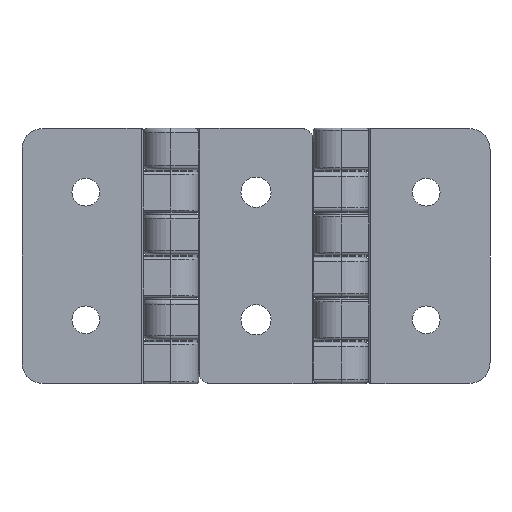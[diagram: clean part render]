
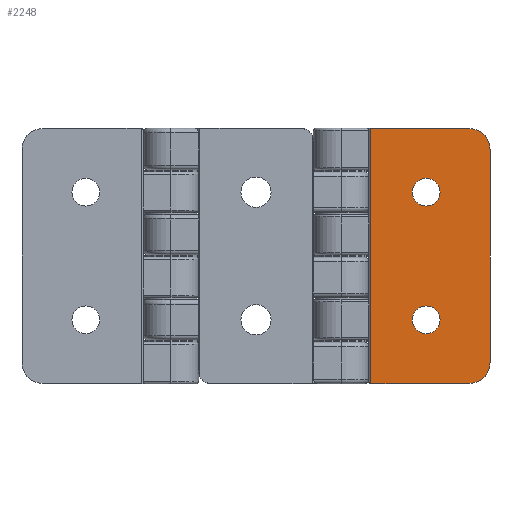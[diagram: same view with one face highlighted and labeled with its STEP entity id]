
A CAD part, front view. The second image highlights one B-rep face of the part: STEP entity #2248.
In plain terms, the highlighted planar face has unit normal (0, -1, 0).
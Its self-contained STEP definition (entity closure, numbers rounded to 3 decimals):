
#747 = ORIENTED_EDGE ( 'NONE', *, *, #2654, .F. ) ;
#748 = ORIENTED_EDGE ( 'NONE', *, *, #2579, .F. ) ;
#749 = ORIENTED_EDGE ( 'NONE', *, *, #2655, .F. ) ;
#750 = ORIENTED_EDGE ( 'NONE', *, *, #2582, .F. ) ;
#751 = ORIENTED_EDGE ( 'NONE', *, *, #2656, .F. ) ;
#752 = ORIENTED_EDGE ( 'NONE', *, *, #2657, .T. ) ;
#753 = ORIENTED_EDGE ( 'NONE', *, *, #2658, .T. ) ;
#754 = ORIENTED_EDGE ( 'NONE', *, *, #2659, .T. ) ;
#755 = ORIENTED_EDGE ( 'NONE', *, *, #2653, .T. ) ;
#756 = ORIENTED_EDGE ( 'NONE', *, *, #2660, .T. ) ;
#757 = ORIENTED_EDGE ( 'NONE', *, *, #2661, .F. ) ;
#1741 = EDGE_LOOP ( 'NONE', ( #749, #750 ) ) ;
#1743 = EDGE_LOOP ( 'NONE', ( #747, #748 ) ) ;
#1744 = EDGE_LOOP ( 'NONE', ( #751, #752, #753, #754, #755, #756, #757 ) ) ;
#1829 = VERTEX_POINT ( 'NONE', #4103 ) ;
#1899 = VERTEX_POINT ( 'NONE', #4173 ) ;
#1928 = VERTEX_POINT ( 'NONE', #4202 ) ;
#1935 = VERTEX_POINT ( 'NONE', #4209 ) ;
#1984 = VERTEX_POINT ( 'NONE', #4258 ) ;
#1988 = VERTEX_POINT ( 'NONE', #4262 ) ;
#2009 = VERTEX_POINT ( 'NONE', #4283 ) ;
#2012 = VERTEX_POINT ( 'NONE', #4286 ) ;
#2013 = VERTEX_POINT ( 'NONE', #4287 ) ;
#2015 = VERTEX_POINT ( 'NONE', #4289 ) ;
#2016 = VERTEX_POINT ( 'NONE', #4290 ) ;
#2248 = ADVANCED_FACE ( 'NONE', ( #3389, #3391, #3388 ), #4966, .T. ) ;
#2579 = EDGE_CURVE ( 'NONE', #1928, #1829, #5751, .T. ) ;
#2582 = EDGE_CURVE ( 'NONE', #1935, #1899, #5756, .T. ) ;
#2653 = EDGE_CURVE ( 'NONE', #1984, #2012, #5904, .T. ) ;
#2654 = EDGE_CURVE ( 'NONE', #1829, #1928, #5899, .T. ) ;
#2655 = EDGE_CURVE ( 'NONE', #1899, #1935, #5908, .T. ) ;
#2656 = EDGE_CURVE ( 'NONE', #2009, #1988, #5909, .T. ) ;
#2657 = EDGE_CURVE ( 'NONE', #2009, #2015, #5906, .T. ) ;
#2658 = EDGE_CURVE ( 'NONE', #2015, #2016, #5913, .T. ) ;
#2659 = EDGE_CURVE ( 'NONE', #2016, #1984, #5915, .T. ) ;
#2660 = EDGE_CURVE ( 'NONE', #2012, #2013, #5918, .T. ) ;
#2661 = EDGE_CURVE ( 'NONE', #1988, #2013, #5920, .T. ) ;
#3388 = FACE_OUTER_BOUND ( 'NONE', #1744, .T. ) ;
#3389 = FACE_BOUND ( 'NONE', #1743, .T. ) ;
#3391 = FACE_BOUND ( 'NONE', #1741, .T. ) ;
#4103 = CARTESIAN_POINT ( 'NONE',  ( 23.25, -6.8, -45. ) ) ;
#4173 = CARTESIAN_POINT ( 'NONE',  ( 23.25, -6.8, -15. ) ) ;
#4202 = CARTESIAN_POINT ( 'NONE',  ( 16.75, -6.8, -45. ) ) ;
#4209 = CARTESIAN_POINT ( 'NONE',  ( 16.75, -6.8, -15. ) ) ;
#4258 = CARTESIAN_POINT ( 'NONE',  ( 35., -6.8, -55. ) ) ;
#4262 = CARTESIAN_POINT ( 'NONE',  ( 6.8, -6.8, 0. ) ) ;
#4283 = CARTESIAN_POINT ( 'NONE',  ( 6.8, -6.8, -59.958 ) ) ;
#4286 = CARTESIAN_POINT ( 'NONE',  ( 35., -6.8, -5. ) ) ;
#4287 = CARTESIAN_POINT ( 'NONE',  ( 30., -6.8, 0. ) ) ;
#4289 = CARTESIAN_POINT ( 'NONE',  ( 7., -6.8, -60. ) ) ;
#4290 = CARTESIAN_POINT ( 'NONE',  ( 30., -6.8, -60. ) ) ;
#4628 = AXIS2_PLACEMENT_3D ( 'NONE', #4965, #4961, #4967 ) ;
#4961 = DIRECTION ( 'NONE',  ( 0., -1., 0. ) ) ;
#4965 = CARTESIAN_POINT ( 'NONE',  ( 6.8, -6.8, -60. ) ) ;
#4966 = PLANE ( 'NONE',  #4628 ) ;
#4967 = DIRECTION ( 'NONE',  ( 1., 0., 0. ) ) ;
#5751 = CIRCLE ( 'NONE', #7010, 3.25 ) ;
#5756 = CIRCLE ( 'NONE', #7011, 3.25 ) ;
#5899 = CIRCLE ( 'NONE', #7037, 3.25 ) ;
#5904 = LINE ( 'NONE', #7144, #5907 ) ;
#5906 = CIRCLE ( 'NONE', #7039, 0.5 ) ;
#5907 = VECTOR ( 'NONE', #7145, 1000. ) ;
#5908 = CIRCLE ( 'NONE', #7038, 3.25 ) ;
#5909 = LINE ( 'NONE', #7146, #5912 ) ;
#5912 = VECTOR ( 'NONE', #7147, 1000. ) ;
#5913 = LINE ( 'NONE', #7155, #5916 ) ;
#5915 = CIRCLE ( 'NONE', #7040, 5. ) ;
#5916 = VECTOR ( 'NONE', #7151, 1000. ) ;
#5918 = CIRCLE ( 'NONE', #7041, 5. ) ;
#5920 = LINE ( 'NONE', #7159, #5922 ) ;
#5922 = VECTOR ( 'NONE', #7160, 1000. ) ;
#6808 = CARTESIAN_POINT ( 'NONE',  ( 20., -6.8, -45. ) ) ;
#6809 = DIRECTION ( 'NONE',  ( 0., -1., 0. ) ) ;
#6810 = DIRECTION ( 'NONE',  ( 1., 0., 0. ) ) ;
#6814 = CARTESIAN_POINT ( 'NONE',  ( 20., -6.8, -15. ) ) ;
#6815 = DIRECTION ( 'NONE',  ( 0., -1., 0. ) ) ;
#6816 = DIRECTION ( 'NONE',  ( 1., 0., 0. ) ) ;
#7010 = AXIS2_PLACEMENT_3D ( 'NONE', #6808, #6809, #6810 ) ;
#7011 = AXIS2_PLACEMENT_3D ( 'NONE', #6814, #6815, #6816 ) ;
#7037 = AXIS2_PLACEMENT_3D ( 'NONE', #7148, #7149, #7150 ) ;
#7038 = AXIS2_PLACEMENT_3D ( 'NONE', #7152, #7153, #7154 ) ;
#7039 = AXIS2_PLACEMENT_3D ( 'NONE', #7156, #7157, #7158 ) ;
#7040 = AXIS2_PLACEMENT_3D ( 'NONE', #7161, #7162, #7163 ) ;
#7041 = AXIS2_PLACEMENT_3D ( 'NONE', #7165, #7166, #7167 ) ;
#7144 = CARTESIAN_POINT ( 'NONE',  ( 35., -6.8, -60. ) ) ;
#7145 = DIRECTION ( 'NONE',  ( 0., 0., 1. ) ) ;
#7146 = CARTESIAN_POINT ( 'NONE',  ( 6.8, -6.8, -60. ) ) ;
#7147 = DIRECTION ( 'NONE',  ( 0., 0., 1. ) ) ;
#7148 = CARTESIAN_POINT ( 'NONE',  ( 20., -6.8, -45. ) ) ;
#7149 = DIRECTION ( 'NONE',  ( 0., -1., 0. ) ) ;
#7150 = DIRECTION ( 'NONE',  ( 1., 0., 0. ) ) ;
#7151 = DIRECTION ( 'NONE',  ( 1., 0., 0. ) ) ;
#7152 = CARTESIAN_POINT ( 'NONE',  ( 20., -6.8, -15. ) ) ;
#7153 = DIRECTION ( 'NONE',  ( 0., -1., 0. ) ) ;
#7154 = DIRECTION ( 'NONE',  ( 1., 0., 0. ) ) ;
#7155 = CARTESIAN_POINT ( 'NONE',  ( 6.8, -6.8, -60. ) ) ;
#7156 = CARTESIAN_POINT ( 'NONE',  ( 7., -6.8, -59.5 ) ) ;
#7157 = DIRECTION ( 'NONE',  ( 0., -1., 0. ) ) ;
#7158 = DIRECTION ( 'NONE',  ( 1., 0., 0. ) ) ;
#7159 = CARTESIAN_POINT ( 'NONE',  ( 6.8, -6.8, 0. ) ) ;
#7160 = DIRECTION ( 'NONE',  ( 1., 0., 0. ) ) ;
#7161 = CARTESIAN_POINT ( 'NONE',  ( 30., -6.8, -55. ) ) ;
#7162 = DIRECTION ( 'NONE',  ( 0., -1., 0. ) ) ;
#7163 = DIRECTION ( 'NONE',  ( 1., 0., 0. ) ) ;
#7165 = CARTESIAN_POINT ( 'NONE',  ( 30., -6.8, -5. ) ) ;
#7166 = DIRECTION ( 'NONE',  ( 0., -1., 0. ) ) ;
#7167 = DIRECTION ( 'NONE',  ( 1., 0., 0. ) ) ;
